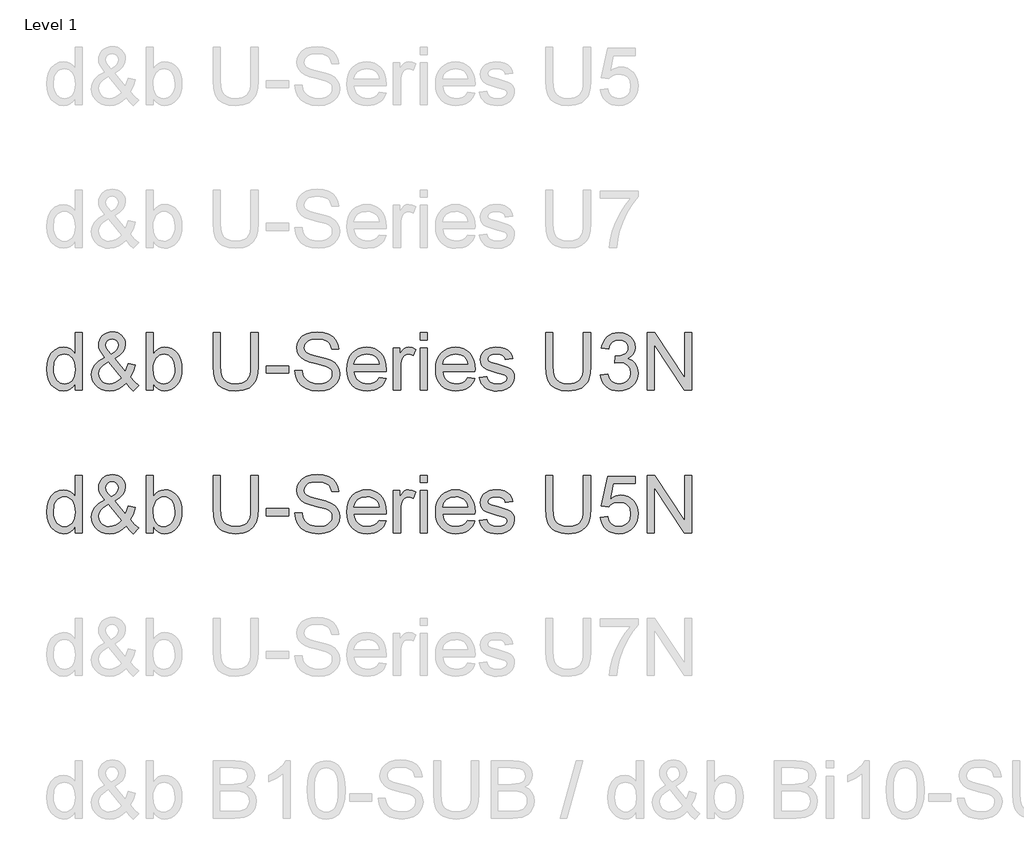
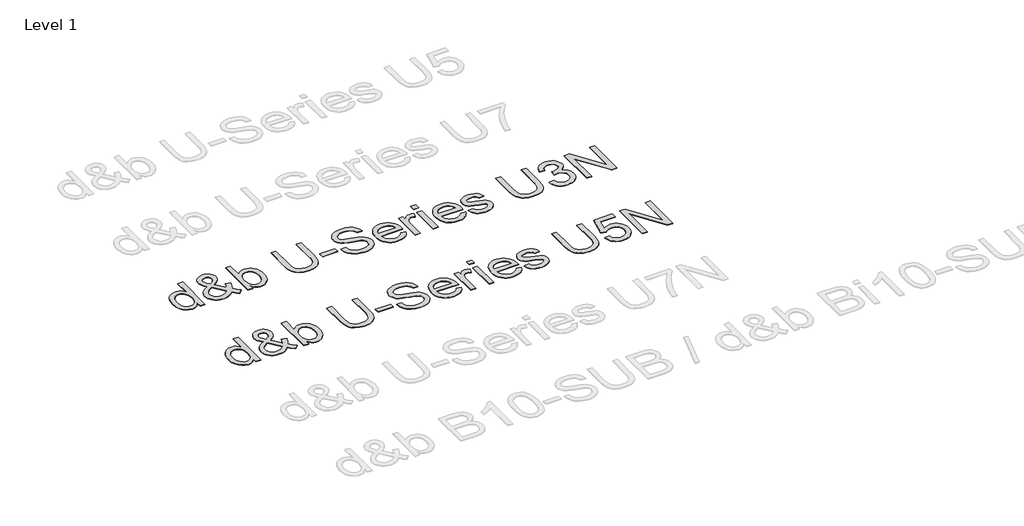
# One storey, part 22 of 29: 2 proxies.
"""IFC4 building model written with IfcOpenShell, lengths in millimetres."""

from ifc_helpers import new_model, si_unit, origin, origin_with_axes, place, context, project, spatial, polyline, outline, extrude, element, save

model = new_model("IFC4")

# Units and contexts
model_context = context("Model", 3, world=origin())
ifc_project = project(units=[si_unit("LENGTHUNIT", "METRE", prefix="MILLI")], contexts=[model_context])

# Site, building, storey
site = spatial("IfcSite", under=ifc_project)
building = spatial("IfcBuilding", under=site)
storey = spatial("IfcBuildingStorey", under=building, Name="Level 1", Elevation=0.0)

# Proxies
placement = place(None, origin())
element("IfcBuildingElementProxy", 1, Name="400mm Arial", ObjectType="400mm Arial", at=placement, inside=storey, context=model_context, shape_type="SweptSolid", body=[
    extrude(outline(polyline([(-20788.4119982, 13464.3636615), (-20788.4119982, 13511.7468625), (-20803.4399777, 13488.2698598), (-20821.6440051, 13471.5005722), (-20843.0240804, 13461.4389996), (-20867.5802036, 13458.0851421), (-20900.051921, 13462.9411844), (-20929.7767862, 13477.5093115), (-20954.9399147, 13500.7717163), (-20973.7264219, 13531.7105921), (-20985.4250694, 13569.0751401), (-20989.3246185, 13611.6145614), (-20985.7316377, 13653.6266853), (-20974.9526952, 13691.5675817), (-20957.0000539, 13723.2790097), (-20931.8859763, 13746.6027282), (-20901.5111863, 13760.950126), (-20867.7764073, 13765.7325919), (-20843.20189, 13762.3112894), (-20821.4723268, 13752.0473817), (-20803.0537016, 13736.3142951), (-20788.4119982, 13716.4854555), (-20788.4119982, 13866.1889021), (-20738.1838431, 13866.1889021), (-20738.1838431, 13464.3636615), (-20788.4119982, 13464.3636615)]), holes=[polyline([(-20939.0964634, 13611.8107652), (-20937.6801177, 13587.4539114), (-20933.4310807, 13566.3773388), (-20926.3493523, 13548.5810472), (-20916.4349325, 13534.0650368), (-20891.7377879, 13514.7512321), (-20877.8625053, 13509.9227809), (-20862.9694159, 13508.3132972), (-20848.0058157, 13509.8492045), (-20834.2133066, 13514.4569265), (-20810.1415614, 13532.8878145), (-20800.6348775, 13546.7968196), (-20793.844389, 13563.9493176), (-20788.4119982, 13607.9847924), (-20793.9424909, 13656.1282828), (-20800.8556067, 13674.663404), (-20810.5339688, 13689.5074425), (-20822.235682, 13700.8811276), (-20835.2188507, 13709.0051883), (-20849.4834751, 13713.8796247), (-20865.0295551, 13715.5044369), (-20880.2169501, 13713.9440041), (-20894.0922327, 13709.2627057), (-20906.6554028, 13701.4605417), (-20917.9064605, 13690.5375121), (-20927.1770868, 13676.2544937), (-20933.7989627, 13658.372363), (-20939.0964634, 13611.8107652)])]), origin_with_axes(), (0.0, 0.0, 1.0), 5.0),
    extrude(outline(polyline([(-20432.4003287, 13514.0032054), (-20457.9313392, 13489.5390527), (-20485.6696416, 13472.0646579), (-20515.664287, 13461.5800211), (-20547.9643262, 13458.0851421), (-20577.2722584, 13460.6725788), (-20603.3918801, 13468.4348889), (-20626.3231911, 13481.3720724), (-20646.0661915, 13499.4841293), (-20658.8991418, 13516.8542908), (-20668.0655348, 13535.2177338), (-20673.5653707, 13554.5744581), (-20675.3986493, 13574.9244638), (-20669.5002746, 13610.118508), (-20651.8051507, 13641.7318341), (-20622.3868538, 13669.7399167), (-20581.3189604, 13694.1182302), (-20603.2324646, 13722.4696693), (-20616.3903773, 13744.9349965), (-20622.975465, 13764.1139112), (-20625.1704942, 13782.6061128), (-20623.4414488, 13800.1602153), (-20618.2543127, 13816.5248327), (-20609.6090858, 13831.699965), (-20597.5057682, 13845.6856122), (-20582.784357, 13857.4026538), (-20566.2848495, 13865.7719692), (-20548.0072457, 13870.7935584), (-20527.9515456, 13872.4674215), (-20508.8032878, 13870.8671348), (-20491.4821772, 13866.0662748), (-20475.9882138, 13858.0648414), (-20462.3213977, 13846.8628346), (-20451.1623105, 13833.4167477), (-20443.1915339, 13818.6830738), (-20438.409068, 13802.6618129), (-20436.8149127, 13785.352965), (-20441.5360649, 13757.3694079), (-20455.6995218, 13731.4950409), (-20479.3052831, 13707.729864), (-20512.353349, 13686.0738773), (-20439.6598668, 13595.5258555), (-20427.2745063, 13621.4002225), (-20417.9793545, 13651.1496132), (-20367.7511994, 13640.2603061), (-20383.2022432, 13593.7354965), (-20403.2640747, 13557.5604336), (-20374.7164319, 13524.2548503), (-20342.6371219, 13496.7372771), (-20380.3082382, 13458.0851421), (-20405.9373505, 13481.5314879), (-20432.4003287, 13514.0032054)]), holes=[polyline([(-20537.7617322, 13717.7607798), (-20511.4949577, 13734.4258341), (-20496.4608468, 13748.908122), (-20489.3975125, 13762.9980024), (-20487.0430678, 13778.4858344), (-20490.1455392, 13796.0338056), (-20499.4529537, 13810.0255842), (-20513.4202068, 13819.1858458), (-20530.5021941, 13822.2392664), (-20547.9520634, 13819.2103713), (-20562.2381476, 13810.123686), (-20571.7662912, 13796.6714677), (-20574.9423391, 13780.5459736), (-20570.6258571, 13762.1518739), (-20557.578309, 13741.6976349), (-20537.7617322, 13717.7607798)]), polyline([(-20466.0492686, 13550.2027937), (-20555.7143735, 13662.1370221), (-20589.9641873, 13640.2848316), (-20610.8966728, 13620.0513218), (-20621.6020389, 13600.7252544), (-20625.1704942, 13581.5953906), (-20620.2899264, 13557.9037901), (-20605.648223, 13533.3292729), (-20594.8692805, 13522.3847835), (-20582.0547244, 13514.5672911), (-20567.2045545, 13509.8767957), (-20550.3187709, 13508.3132972), (-20527.5959264, 13511.2318277), (-20504.1618433, 13519.9874192), (-20482.7388484, 13533.3783238), (-20466.0492686, 13550.2027937)])]), origin_with_axes(), (0.0, 0.0, 1.0), 5.0),
    extrude(outline(polyline([(-20242.1808118, 13464.3636615), (-20292.4089668, 13464.3636615), (-20292.4089668, 13866.1889021), (-20242.1808118, 13866.1889021), (-20242.1808118, 13717.1721686), (-20225.6629102, 13738.4173538), (-20207.011293, 13753.5924861), (-20186.2259603, 13762.6975655), (-20163.306912, 13765.7325919), (-20137.432545, 13762.9980024), (-20112.9806551, 13754.7942339), (-20091.3491937, 13741.6363213), (-20073.9361126, 13724.0392992), (-20060.2876906, 13702.1748459), (-20049.9502065, 13676.2146398), (-20043.4386952, 13647.2378013), (-20041.2681915, 13616.323451), (-20043.5153373, 13580.6511602), (-20050.2567749, 13549.270826), (-20061.4925041, 13522.1824484), (-20077.2225251, 13499.3860274), (-20096.1040685, 13481.3168901), (-20116.7943651, 13468.4103634), (-20139.2934148, 13460.6664474), (-20163.6012176, 13458.0851421), (-20187.274424, 13461.4144742), (-20208.2620918, 13471.4024703), (-20226.5642211, 13488.0491306), (-20242.1808118, 13511.354455), (-20242.1808118, 13464.3636615)]), holes=[polyline([(-20242.1808118, 13613.9690062), (-20238.7472465, 13572.0795097), (-20228.4465506, 13543.7280706), (-20216.2757879, 13528.2341072), (-20202.1307252, 13517.1669905), (-20186.0113625, 13510.5267205), (-20167.9176997, 13508.3132972), (-20152.8958515, 13509.9442407), (-20138.9285984, 13514.8370712), (-20126.0159404, 13522.9917888), (-20114.1578774, 13534.4083934), (-20104.2434577, 13549.0562281), (-20097.1617293, 13566.9046363), (-20092.9126922, 13587.9536178), (-20091.4963465, 13612.2031726), (-20096.9287373, 13658.1638965), (-20103.7192258, 13675.9571224), (-20113.2259097, 13690.2922575), (-20124.6578427, 13701.322586), (-20137.2240785, 13709.201392), (-20150.9246172, 13713.9286757), (-20165.7594586, 13715.5044369), (-20180.7813068, 13713.8734934), (-20194.7485599, 13708.9806628), (-20207.6612179, 13700.8259453), (-20219.5192809, 13689.4093407), (-20229.4337006, 13674.9086587), (-20236.515429, 13657.501709), (-20240.7644661, 13637.1884915), (-20242.1808118, 13613.9690062)])]), origin_with_axes(), (0.0, 0.0, 1.0), 5.0),
    extrude(outline(polyline([(-19557.8221989, 13866.1889021), (-19507.5940438, 13866.1889021), (-19507.5940438, 13634.3741942), (-19511.0030836, 13580.0870744), (-19521.2302031, 13538.2834171), (-19529.4155775, 13521.3301884), (-19540.3355414, 13506.0324288), (-19570.3792376, 13480.4033165), (-19589.5213641, 13470.6391152), (-19611.4348683, 13463.6646857), (-19663.5760097, 13458.0851421), (-19714.576717, 13462.9411844), (-19755.3503048, 13477.5093115), (-19771.9049946, 13488.3097137), (-19785.9090359, 13501.2867511), (-19797.3624287, 13516.4404236), (-19806.2651729, 13533.7707312), (-19817.706303, 13577.3402222), (-19821.520013, 13634.3741942), (-19821.520013, 13866.1889021), (-19771.2918579, 13866.1889021), (-19771.2918579, 13636.1400278), (-19768.8147858, 13591.000907), (-19761.3835695, 13559.5715218), (-19747.9190885, 13537.8051705), (-19727.3422222, 13521.6551509), (-19700.5113621, 13511.6487606), (-19668.2848993, 13508.3132972), (-19640.6017791, 13509.9626348), (-19617.1983529, 13514.9106476), (-19598.0746205, 13523.1573357), (-19583.230582, 13534.702699), (-19572.1144144, 13550.9385577), (-19564.1742947, 13573.2567321), (-19559.4102228, 13601.6572221), (-19557.8221989, 13636.1400278), (-19557.8221989, 13866.1889021)])), origin_with_axes(), (0.0, 0.0, 1.0), 5.0),
    extrude(outline(polyline([(-19451.0873693, 13583.6555298), (-19451.0873693, 13633.8836849), (-19294.1243847, 13633.8836849), (-19294.1243847, 13583.6555298), (-19451.0873693, 13583.6555298)])), origin_with_axes(), (0.0, 0.0, 1.0), 5.0),
    extrude(outline(polyline([(-19250.174749, 13602.4910879), (-19199.946594, 13602.4910879), (-19194.1831094, 13574.6178954), (-19183.7597862, 13552.2138819), (-19167.499402, 13534.4329188), (-19144.2247344, 13520.4288776), (-19115.7751935, 13511.3421923), (-19083.9901891, 13508.3132972), (-19056.006632, 13510.6064283), (-19031.5056911, 13517.4858216), (-19011.6523261, 13528.3751287), (-18997.6114966, 13542.698001), (-18989.2605753, 13559.1423262), (-18986.4769349, 13576.3959918), (-18988.5615995, 13593.2081989), (-18994.8155934, 13607.7395377), (-19007.519785, 13620.137161), (-19028.9550426, 13630.5482214), (-19102.0899832, 13649.7271361), (-19150.0985836, 13662.419065), (-19180.8167302, 13674.4978571), (-19205.8204431, 13691.3959034), (-19223.5400926, 13711.8746678), (-19234.0983058, 13735.4926919), (-19237.6177103, 13761.8085173), (-19233.26444, 13791.2268142), (-19220.2046292, 13818.6585483), (-19198.7816343, 13841.9086904), (-19169.338812, 13858.7822113), (-19133.997615, 13869.0461189), (-19094.8794961, 13872.4674215), (-19052.4994903, 13868.8867034), (-19015.4169852, 13858.1445491), (-18984.956356, 13840.4616879), (-18962.4419779, 13816.0588489), (-18948.1926819, 13786.456611), (-18942.5272992, 13753.1755532), (-18992.7554543, 13753.1755532), (-19001.9770296, 13783.145673), (-19010.3402136, 13795.003736), (-19021.2049952, 13804.7771344), (-19051.2486915, 13817.8737334), (-19092.9174588, 13822.2392664), (-19135.5672448, 13817.9227843), (-19151.8705486, 13812.5271817), (-19164.8261262, 13804.9733381), (-19181.7486979, 13785.9170507), (-19187.3895552, 13763.2800453), (-19183.3919042, 13743.9785033), (-19171.3989511, 13728.4538831), (-19143.047512, 13714.5724691), (-19089.3857917, 13700.3967496), (-19034.0072887, 13686.9322686), (-19000.5055016, 13675.1845702), (-18971.8720197, 13656.9621487), (-18951.8960273, 13634.4722961), (-18940.1605917, 13607.9602669), (-18936.2487798, 13577.671316), (-18940.7492029, 13546.7079147), (-18954.2504721, 13517.5839235), (-18976.2007645, 13492.5188969), (-19006.048257, 13473.7323896), (-19041.941277, 13461.996954), (-19082.0281518, 13458.0851421), (-19131.2385, 13462.3035223), (-19171.7423077, 13474.958663), (-19204.0055586, 13496.0996149), (-19228.4942368, 13525.7754292), (-19244.2150607, 13561.9259666), (-19250.174749, 13602.4910879)])), origin_with_axes(), (0.0, 0.0, 1.0), 5.0),
    extrude(outline(polyline([(-18660.5825381, 13552.2629329), (-18611.3354017, 13545.9844135), (-18618.8861796, 13526.2598072), (-18629.0795766, 13508.8773829), (-18641.9155925, 13493.8371407), (-18657.3942275, 13481.1390805), (-18675.3560659, 13471.0529824), (-18695.6416922, 13463.8486267), (-18743.1843087, 13458.0851421), (-18774.3500451, 13460.5714113), (-18802.1190044, 13468.0302187), (-18826.4911866, 13480.4615645), (-18847.4665916, 13497.8654485), (-18864.3339811, 13519.7574929), (-18876.3821165, 13545.6533197), (-18883.6109977, 13575.5529288), (-18886.0206247, 13609.4563204), (-18883.5864722, 13644.5093432), (-18876.2840146, 13675.4052994), (-18864.1132519, 13702.1441891), (-18847.0741842, 13724.7260122), (-18826.1539614, 13742.6663908), (-18802.3397336, 13755.480947), (-18775.6315007, 13763.1696807), (-18746.0292628, 13765.7325919), (-18717.3804525, 13763.1758121), (-18691.472363, 13755.5054725), (-18668.3049943, 13742.7215731), (-18647.8783465, 13724.8241141), (-18631.2040951, 13702.2913419), (-18619.2939155, 13675.6015031), (-18612.1478077, 13644.7545978), (-18609.7657718, 13609.750626), (-18610.0600774, 13596.2125686), (-18835.7924697, 13596.2125686), (-18832.8831362, 13576.1691312), (-18827.0981918, 13558.6150287), (-18818.4376365, 13543.550261), (-18806.9014703, 13530.9748281), (-18793.1273553, 13521.0604083), (-18777.7529536, 13513.9786799), (-18742.2032901, 13508.3132972), (-18715.4705318, 13510.9375221), (-18692.9561537, 13518.8101968), (-18674.6601558, 13532.4218306), (-18660.5825381, 13552.2629329)]), holes=[polyline([(-18835.7924697, 13646.4407236), (-18659.9939269, 13646.4407236), (-18666.7874811, 13672.9772782), (-18680.1048093, 13691.9599892), (-18693.8022823, 13702.260685), (-18709.3882161, 13709.6183249), (-18726.8626109, 13714.0329089), (-18746.2254666, 13715.5044369), (-18780.0828729, 13710.8078101), (-18808.0786927, 13696.7179296), (-18827.5396502, 13674.7553745), (-18835.7924697, 13646.4407236)])]), origin_with_axes(), (0.0, 0.0, 1.0), 5.0),
    extrude(outline(polyline([(-18559.5376168, 13464.3636615), (-18559.5376168, 13759.4540726), (-18515.5879811, 13759.4540726), (-18515.5879811, 13715.7987425), (-18499.3521223, 13741.1090237), (-18484.3915879, 13756.0205073), (-18469.3820025, 13763.3045708), (-18452.998991, 13765.7325919), (-18427.9830153, 13761.8575683), (-18402.5746321, 13750.2324972), (-18419.3500511, 13705.203741), (-18437.0083869, 13712.9292629), (-18454.6667227, 13715.5044369), (-18469.6640453, 13713.0273648), (-18483.0672127, 13705.5961485), (-18493.8952061, 13693.7748737), (-18501.1670069, 13678.1276262), (-18507.273848, 13650.0704927), (-18509.3094617, 13619.4627107), (-18509.3094617, 13464.3636615), (-18559.5376168, 13464.3636615)])), origin_with_axes(), (0.0, 0.0, 1.0), 5.0),
    extrude(outline(polyline([(-18371.1820352, 13815.960747), (-18371.1820352, 13866.1889021), (-18320.9538802, 13866.1889021), (-18320.9538802, 13815.960747), (-18371.1820352, 13815.960747)])), origin_with_axes(), (0.0, 0.0, 1.0), 5.0),
    extrude(outline(polyline([(-18371.1820352, 13464.3636615), (-18371.1820352, 13759.4540726), (-18320.9538802, 13759.4540726), (-18320.9538802, 13464.3636615), (-18371.1820352, 13464.3636615)])), origin_with_axes(), (0.0, 0.0, 1.0), 5.0),
    extrude(outline(polyline([(-18039.009119, 13552.2629329), (-17989.7619826, 13545.9844135), (-17997.3127606, 13526.2598072), (-18007.5061575, 13508.8773829), (-18020.3421735, 13493.8371407), (-18035.8208084, 13481.1390805), (-18053.7826468, 13471.0529824), (-18074.0682732, 13463.8486267), (-18121.6108897, 13458.0851421), (-18152.7766261, 13460.5714113), (-18180.5455853, 13468.0302187), (-18204.9177675, 13480.4615645), (-18225.8931726, 13497.8654485), (-18242.7605621, 13519.7574929), (-18254.8086974, 13545.6533197), (-18262.0375786, 13575.5529288), (-18264.4472057, 13609.4563204), (-18262.0130532, 13644.5093432), (-18254.7105956, 13675.4052994), (-18242.5398329, 13702.1441891), (-18225.5007651, 13724.7260122), (-18204.5805423, 13742.6663908), (-18180.7663145, 13755.480947), (-18154.0580817, 13763.1696807), (-18124.4558438, 13765.7325919), (-18095.8070334, 13763.1758121), (-18069.8989439, 13755.5054725), (-18046.7315753, 13742.7215731), (-18026.3049275, 13724.8241141), (-18009.630676, 13702.2913419), (-17997.7204965, 13675.6015031), (-17990.5743887, 13644.7545978), (-17988.1923528, 13609.750626), (-17988.4866584, 13596.2125686), (-18214.2190506, 13596.2125686), (-18211.3097172, 13576.1691312), (-18205.5247728, 13558.6150287), (-18196.8642175, 13543.550261), (-18185.3280513, 13530.9748281), (-18171.5539362, 13521.0604083), (-18156.1795345, 13513.9786799), (-18120.629871, 13508.3132972), (-18093.8971127, 13510.9375221), (-18071.3827346, 13518.8101968), (-18053.0867367, 13532.4218306), (-18039.009119, 13552.2629329)]), holes=[polyline([(-18214.2190506, 13646.4407236), (-18038.4205079, 13646.4407236), (-18045.214062, 13672.9772782), (-18058.5313903, 13691.9599892), (-18072.2288632, 13702.260685), (-18087.8147971, 13709.6183249), (-18105.2891918, 13714.0329089), (-18124.6520475, 13715.5044369), (-18158.5094538, 13710.8078101), (-18186.5052736, 13696.7179296), (-18205.9662312, 13674.7553745), (-18214.2190506, 13646.4407236)])]), origin_with_axes(), (0.0, 0.0, 1.0), 5.0),
    extrude(outline(polyline([(-17956.7997559, 13552.2629329), (-17906.5716008, 13558.5414523), (-17898.6498752, 13537.0571437), (-17883.3214587, 13521.2627434), (-17860.4882495, 13511.5506587), (-17830.0521458, 13508.3132972), (-17799.983924, 13511.2808786), (-17778.8429721, 13520.1836229), (-17766.3349842, 13533.0840182), (-17762.1656549, 13548.0445527), (-17766.3595097, 13560.8468461), (-17778.9410739, 13570.6079817), (-17830.640757, 13584.930854), (-17906.2772952, 13609.5053713), (-17925.4194217, 13621.8539436), (-17939.2885729, 13638.2001669), (-17947.7130706, 13657.501709), (-17950.5212365, 13678.7162373), (-17948.2648936, 13698.1771949), (-17941.4958649, 13716.142099), (-17930.827287, 13731.8997111), (-17916.8722966, 13744.7387927), (-17884.9401395, 13759.6012254), (-17864.0567049, 13764.1997503), (-17841.7262678, 13765.7325919), (-17809.0338211, 13763.2677826), (-17780.6088056, 13755.8733545), (-17757.751071, 13744.2728089), (-17741.7604669, 13729.1896471), (-17731.1654655, 13709.5079603), (-17724.4945386, 13684.1118399), (-17774.7226937, 13677.8333206), (-17781.0625268, 13693.6399836), (-17793.6073028, 13705.5470975), (-17812.4796492, 13713.015102), (-17837.8021932, 13715.5044369), (-17866.6441416, 13713.1254666), (-17885.8721072, 13705.9885559), (-17896.6878378, 13695.6878601), (-17900.2930814, 13683.8175343), (-17894.3088676, 13669.2003564), (-17875.5714113, 13658.1148456), (-17832.3084887, 13647.4217423), (-17758.5849369, 13623.7791927), (-17739.1117166, 13612.4729527), (-17724.3473858, 13596.9973835), (-17715.0399714, 13577.303434), (-17711.9374999, 13553.3420534), (-17715.5795316, 13528.5713324), (-17726.5056269, 13505.2721394), (-17744.2988527, 13485.2716215), (-17768.5422762, 13470.3969262), (-17797.825683, 13461.1630881), (-17830.7388588, 13458.0851421), (-17857.7720541, 13459.5689328), (-17881.3839468, 13464.020305), (-17901.574537, 13471.4392585), (-17918.3438246, 13481.8257935), (-17932.0412976, 13495.130859), (-17943.0164438, 13511.3054041), (-17951.2692632, 13530.3494287), (-17956.7997559, 13552.2629329)])), origin_with_axes(), (0.0, 0.0, 1.0), 5.0),
    extrude(outline(polyline([(-17228.4915073, 13866.1889021), (-17178.2633522, 13866.1889021), (-17178.2633522, 13634.3741942), (-17181.672392, 13580.0870744), (-17191.8995115, 13538.2834171), (-17200.0848859, 13521.3301884), (-17211.0048498, 13506.0324288), (-17241.048546, 13480.4033165), (-17260.1906725, 13470.6391152), (-17282.1041767, 13463.6646857), (-17334.2453182, 13458.0851421), (-17385.2460254, 13462.9411844), (-17426.0196132, 13477.5093115), (-17442.574303, 13488.3097137), (-17456.5783443, 13501.2867511), (-17468.0317371, 13516.4404236), (-17476.9344814, 13533.7707312), (-17488.3756114, 13577.3402222), (-17492.1893214, 13634.3741942), (-17492.1893214, 13866.1889021), (-17441.9611663, 13866.1889021), (-17441.9611663, 13636.1400278), (-17439.4840942, 13591.000907), (-17432.0528779, 13559.5715218), (-17418.5883969, 13537.8051705), (-17398.0115307, 13521.6551509), (-17371.1806705, 13511.6487606), (-17338.9542077, 13508.3132972), (-17311.2710876, 13509.9626348), (-17287.8676613, 13514.9106476), (-17268.7439289, 13523.1573357), (-17253.8998904, 13534.702699), (-17242.7837228, 13550.9385577), (-17234.8436031, 13573.2567321), (-17230.0795312, 13601.6572221), (-17228.4915073, 13636.1400278), (-17228.4915073, 13866.1889021)])), origin_with_axes(), (0.0, 0.0, 1.0), 5.0),
    extrude(outline(polyline([(-17109.199639, 13571.098491), (-17058.9714839, 13577.3770104), (-17047.7265576, 13545.8127352), (-17031.2577069, 13524.500105), (-17008.7555916, 13512.3599991), (-16979.4108711, 13508.3132972), (-16944.9771163, 13513.880578), (-16930.7032949, 13520.8396791), (-16918.3915108, 13530.5824206), (-16901.3953626, 13555.5002944), (-16895.7299799, 13585.715669), (-16901.3463117, 13614.3982019), (-16918.1953071, 13637.6606067), (-16943.7017921, 13653.0748623), (-16975.2905927, 13658.2129475), (-17010.5091624, 13652.719243), (-17004.9173561, 13702.9473981), (-16996.8730031, 13702.3587869), (-16966.7802559, 13705.9640305), (-16939.8758193, 13716.7797611), (-16928.8025713, 13724.9590041), (-16920.8931084, 13735.075759), (-16916.1474306, 13747.1300257), (-16914.5655381, 13761.1218043), (-16919.1518003, 13782.8145792), (-16932.9105869, 13800.4116014), (-16953.9043861, 13812.0734606), (-16980.195686, 13815.960747), (-17006.5360369, 13812.0366724), (-17028.0693963, 13800.2644486), (-17043.7902202, 13780.6440755), (-17052.6929645, 13753.1755532), (-17102.9211196, 13759.4540726), (-17096.9675626, 13783.4338473), (-17088.1322634, 13804.5564052), (-17076.4152218, 13822.8217462), (-17061.816438, 13838.2298705), (-17044.7957643, 13850.4619468), (-17025.8130534, 13859.1991442), (-17004.8683051, 13864.4414626), (-16981.9615196, 13866.1889021), (-16950.3849817, 13862.7430741), (-16921.3836177, 13852.40559), (-16896.9317278, 13836.0961549), (-16879.0036119, 13814.7344737), (-16868.0039402, 13790.1231682), (-16864.337383, 13764.0648602), (-16867.8199992, 13739.7846485), (-16878.2678479, 13717.7607798), (-16895.5337762, 13698.998798), (-16919.4706313, 13684.5042474), (-16888.0289835, 13671.8000558), (-16864.7297904, 13650.1685945), (-16850.3088162, 13620.7870858), (-16845.5018248, 13584.8327522), (-16847.9053205, 13559.3507926), (-16855.1158076, 13535.8799214), (-16867.1332861, 13514.4201383), (-16883.9577561, 13494.9714435), (-16904.4549146, 13478.8336866), (-16927.4904588, 13467.3067175), (-16953.0643889, 13460.3905359), (-16981.1767046, 13458.0851421), (-17006.5850878, 13460.0533108), (-17029.737128, 13465.9578168), (-17050.6328253, 13475.7986602), (-17069.2721798, 13489.5758409), (-17084.9010332, 13506.4800186), (-17096.7652275, 13525.7018528), (-17104.8647628, 13547.2413436), (-17109.199639, 13571.098491)])), origin_with_axes(), (0.0, 0.0, 1.0), 5.0),
    extrude(outline(polyline([(-16782.716631, 13464.3636615), (-16782.716631, 13866.1889021), (-16728.9568088, 13866.1889021), (-16519.0188168, 13547.8483489), (-16519.0188168, 13866.1889021), (-16468.7906618, 13866.1889021), (-16468.7906618, 13464.3636615), (-16522.550484, 13464.3636615), (-16732.4884759, 13782.8023165), (-16732.4884759, 13464.3636615), (-16782.716631, 13464.3636615)])), origin_with_axes(), (0.0, 0.0, 1.0), 5.0),
])
element("IfcBuildingElementProxy", 2, Name="400mm Arial", ObjectType="400mm Arial", at=placement, inside=storey, context=model_context, shape_type="SweptSolid", body=[
    extrude(outline(polyline([(-20788.4119982, 12464.3636615), (-20788.4119982, 12511.7468625), (-20803.4399777, 12488.2698598), (-20821.6440051, 12471.5005722), (-20843.0240804, 12461.4389996), (-20867.5802036, 12458.0851421), (-20900.051921, 12462.9411844), (-20929.7767862, 12477.5093115), (-20954.9399147, 12500.7717163), (-20973.7264219, 12531.7105921), (-20985.4250694, 12569.0751401), (-20989.3246185, 12611.6145614), (-20985.7316377, 12653.6266853), (-20974.9526952, 12691.5675817), (-20957.0000539, 12723.2790097), (-20931.8859763, 12746.6027282), (-20901.5111863, 12760.950126), (-20867.7764073, 12765.7325919), (-20843.20189, 12762.3112894), (-20821.4723268, 12752.0473817), (-20803.0537016, 12736.3142951), (-20788.4119982, 12716.4854555), (-20788.4119982, 12866.1889021), (-20738.1838431, 12866.1889021), (-20738.1838431, 12464.3636615), (-20788.4119982, 12464.3636615)]), holes=[polyline([(-20939.0964634, 12611.8107652), (-20937.6801177, 12587.4539114), (-20933.4310807, 12566.3773388), (-20926.3493523, 12548.5810472), (-20916.4349325, 12534.0650368), (-20891.7377879, 12514.7512321), (-20877.8625053, 12509.9227809), (-20862.9694159, 12508.3132972), (-20848.0058157, 12509.8492045), (-20834.2133066, 12514.4569265), (-20810.1415614, 12532.8878145), (-20800.6348775, 12546.7968196), (-20793.844389, 12563.9493176), (-20788.4119982, 12607.9847924), (-20793.9424909, 12656.1282828), (-20800.8556067, 12674.663404), (-20810.5339688, 12689.5074425), (-20822.235682, 12700.8811276), (-20835.2188507, 12709.0051883), (-20849.4834751, 12713.8796247), (-20865.0295551, 12715.5044369), (-20880.2169501, 12713.9440041), (-20894.0922327, 12709.2627057), (-20906.6554028, 12701.4605417), (-20917.9064605, 12690.5375121), (-20927.1770868, 12676.2544937), (-20933.7989627, 12658.372363), (-20939.0964634, 12611.8107652)])]), origin_with_axes(), (0.0, 0.0, 1.0), 5.0),
    extrude(outline(polyline([(-20432.4003287, 12514.0032054), (-20457.9313392, 12489.5390527), (-20485.6696416, 12472.0646579), (-20515.664287, 12461.5800211), (-20547.9643262, 12458.0851421), (-20577.2722584, 12460.6725788), (-20603.3918801, 12468.4348889), (-20626.3231911, 12481.3720724), (-20646.0661915, 12499.4841293), (-20658.8991418, 12516.8542908), (-20668.0655348, 12535.2177338), (-20673.5653707, 12554.5744581), (-20675.3986493, 12574.9244638), (-20669.5002746, 12610.118508), (-20651.8051507, 12641.7318341), (-20622.3868538, 12669.7399167), (-20581.3189604, 12694.1182302), (-20603.2324646, 12722.4696693), (-20616.3903773, 12744.9349965), (-20622.975465, 12764.1139112), (-20625.1704942, 12782.6061128), (-20623.4414488, 12800.1602153), (-20618.2543127, 12816.5248327), (-20609.6090858, 12831.699965), (-20597.5057682, 12845.6856122), (-20582.784357, 12857.4026538), (-20566.2848495, 12865.7719692), (-20548.0072457, 12870.7935584), (-20527.9515456, 12872.4674215), (-20508.8032878, 12870.8671348), (-20491.4821772, 12866.0662748), (-20475.9882138, 12858.0648414), (-20462.3213977, 12846.8628346), (-20451.1623105, 12833.4167477), (-20443.1915339, 12818.6830738), (-20438.409068, 12802.6618129), (-20436.8149127, 12785.352965), (-20441.5360649, 12757.3694079), (-20455.6995218, 12731.4950409), (-20479.3052831, 12707.729864), (-20512.353349, 12686.0738773), (-20439.6598668, 12595.5258555), (-20427.2745063, 12621.4002225), (-20417.9793545, 12651.1496132), (-20367.7511994, 12640.2603061), (-20383.2022432, 12593.7354965), (-20403.2640747, 12557.5604336), (-20374.7164319, 12524.2548503), (-20342.6371219, 12496.7372771), (-20380.3082382, 12458.0851421), (-20405.9373505, 12481.5314879), (-20432.4003287, 12514.0032054)]), holes=[polyline([(-20537.7617322, 12717.7607798), (-20511.4949577, 12734.4258341), (-20496.4608468, 12748.908122), (-20489.3975125, 12762.9980024), (-20487.0430678, 12778.4858344), (-20490.1455392, 12796.0338056), (-20499.4529537, 12810.0255842), (-20513.4202068, 12819.1858458), (-20530.5021941, 12822.2392664), (-20547.9520634, 12819.2103713), (-20562.2381476, 12810.123686), (-20571.7662912, 12796.6714677), (-20574.9423391, 12780.5459736), (-20570.6258571, 12762.1518739), (-20557.578309, 12741.6976349), (-20537.7617322, 12717.7607798)]), polyline([(-20466.0492686, 12550.2027937), (-20555.7143735, 12662.1370221), (-20589.9641873, 12640.2848316), (-20610.8966728, 12620.0513218), (-20621.6020389, 12600.7252544), (-20625.1704942, 12581.5953906), (-20620.2899264, 12557.9037901), (-20605.648223, 12533.3292729), (-20594.8692805, 12522.3847835), (-20582.0547244, 12514.5672911), (-20567.2045545, 12509.8767957), (-20550.3187709, 12508.3132972), (-20527.5959264, 12511.2318277), (-20504.1618433, 12519.9874192), (-20482.7388484, 12533.3783238), (-20466.0492686, 12550.2027937)])]), origin_with_axes(), (0.0, 0.0, 1.0), 5.0),
    extrude(outline(polyline([(-20242.1808118, 12464.3636615), (-20292.4089668, 12464.3636615), (-20292.4089668, 12866.1889021), (-20242.1808118, 12866.1889021), (-20242.1808118, 12717.1721686), (-20225.6629102, 12738.4173538), (-20207.011293, 12753.5924861), (-20186.2259603, 12762.6975655), (-20163.306912, 12765.7325919), (-20137.432545, 12762.9980024), (-20112.9806551, 12754.7942339), (-20091.3491937, 12741.6363213), (-20073.9361126, 12724.0392992), (-20060.2876906, 12702.1748459), (-20049.9502065, 12676.2146398), (-20043.4386952, 12647.2378013), (-20041.2681915, 12616.323451), (-20043.5153373, 12580.6511602), (-20050.2567749, 12549.270826), (-20061.4925041, 12522.1824484), (-20077.2225251, 12499.3860274), (-20096.1040685, 12481.3168901), (-20116.7943651, 12468.4103634), (-20139.2934148, 12460.6664474), (-20163.6012176, 12458.0851421), (-20187.274424, 12461.4144742), (-20208.2620918, 12471.4024703), (-20226.5642211, 12488.0491306), (-20242.1808118, 12511.354455), (-20242.1808118, 12464.3636615)]), holes=[polyline([(-20242.1808118, 12613.9690062), (-20238.7472465, 12572.0795097), (-20228.4465506, 12543.7280706), (-20216.2757879, 12528.2341072), (-20202.1307252, 12517.1669905), (-20186.0113625, 12510.5267205), (-20167.9176997, 12508.3132972), (-20152.8958515, 12509.9442407), (-20138.9285984, 12514.8370712), (-20126.0159404, 12522.9917888), (-20114.1578774, 12534.4083934), (-20104.2434577, 12549.0562281), (-20097.1617293, 12566.9046363), (-20092.9126922, 12587.9536178), (-20091.4963465, 12612.2031726), (-20096.9287373, 12658.1638965), (-20103.7192258, 12675.9571224), (-20113.2259097, 12690.2922575), (-20124.6578427, 12701.322586), (-20137.2240785, 12709.201392), (-20150.9246172, 12713.9286757), (-20165.7594586, 12715.5044369), (-20180.7813068, 12713.8734934), (-20194.7485599, 12708.9806628), (-20207.6612179, 12700.8259453), (-20219.5192809, 12689.4093407), (-20229.4337006, 12674.9086587), (-20236.515429, 12657.501709), (-20240.7644661, 12637.1884915), (-20242.1808118, 12613.9690062)])]), origin_with_axes(), (0.0, 0.0, 1.0), 5.0),
    extrude(outline(polyline([(-19557.8221989, 12866.1889021), (-19507.5940438, 12866.1889021), (-19507.5940438, 12634.3741942), (-19511.0030836, 12580.0870744), (-19521.2302031, 12538.2834171), (-19529.4155775, 12521.3301884), (-19540.3355414, 12506.0324288), (-19570.3792376, 12480.4033165), (-19589.5213641, 12470.6391152), (-19611.4348683, 12463.6646857), (-19663.5760097, 12458.0851421), (-19714.576717, 12462.9411844), (-19755.3503048, 12477.5093115), (-19771.9049946, 12488.3097137), (-19785.9090359, 12501.2867511), (-19797.3624287, 12516.4404236), (-19806.2651729, 12533.7707312), (-19817.706303, 12577.3402222), (-19821.520013, 12634.3741942), (-19821.520013, 12866.1889021), (-19771.2918579, 12866.1889021), (-19771.2918579, 12636.1400278), (-19768.8147858, 12591.000907), (-19761.3835695, 12559.5715218), (-19747.9190885, 12537.8051705), (-19727.3422222, 12521.6551509), (-19700.5113621, 12511.6487606), (-19668.2848993, 12508.3132972), (-19640.6017791, 12509.9626348), (-19617.1983529, 12514.9106476), (-19598.0746205, 12523.1573357), (-19583.230582, 12534.702699), (-19572.1144144, 12550.9385577), (-19564.1742947, 12573.2567321), (-19559.4102228, 12601.6572221), (-19557.8221989, 12636.1400278), (-19557.8221989, 12866.1889021)])), origin_with_axes(), (0.0, 0.0, 1.0), 5.0),
    extrude(outline(polyline([(-19451.0873693, 12583.6555298), (-19451.0873693, 12633.8836849), (-19294.1243847, 12633.8836849), (-19294.1243847, 12583.6555298), (-19451.0873693, 12583.6555298)])), origin_with_axes(), (0.0, 0.0, 1.0), 5.0),
    extrude(outline(polyline([(-19250.174749, 12602.4910879), (-19199.946594, 12602.4910879), (-19194.1831094, 12574.6178954), (-19183.7597862, 12552.2138819), (-19167.499402, 12534.4329188), (-19144.2247344, 12520.4288776), (-19115.7751935, 12511.3421923), (-19083.9901891, 12508.3132972), (-19056.006632, 12510.6064283), (-19031.5056911, 12517.4858216), (-19011.6523261, 12528.3751287), (-18997.6114966, 12542.698001), (-18989.2605753, 12559.1423262), (-18986.4769349, 12576.3959918), (-18988.5615995, 12593.2081989), (-18994.8155934, 12607.7395377), (-19007.519785, 12620.137161), (-19028.9550426, 12630.5482214), (-19102.0899832, 12649.7271361), (-19150.0985836, 12662.419065), (-19180.8167302, 12674.4978571), (-19205.8204431, 12691.3959034), (-19223.5400926, 12711.8746678), (-19234.0983058, 12735.4926919), (-19237.6177103, 12761.8085173), (-19233.26444, 12791.2268142), (-19220.2046292, 12818.6585483), (-19198.7816343, 12841.9086904), (-19169.338812, 12858.7822113), (-19133.997615, 12869.0461189), (-19094.8794961, 12872.4674215), (-19052.4994903, 12868.8867034), (-19015.4169852, 12858.1445491), (-18984.956356, 12840.4616879), (-18962.4419779, 12816.0588489), (-18948.1926819, 12786.456611), (-18942.5272992, 12753.1755532), (-18992.7554543, 12753.1755532), (-19001.9770296, 12783.145673), (-19010.3402136, 12795.003736), (-19021.2049952, 12804.7771344), (-19051.2486915, 12817.8737334), (-19092.9174588, 12822.2392664), (-19135.5672448, 12817.9227843), (-19151.8705486, 12812.5271817), (-19164.8261262, 12804.9733381), (-19181.7486979, 12785.9170507), (-19187.3895552, 12763.2800453), (-19183.3919042, 12743.9785033), (-19171.3989511, 12728.4538831), (-19143.047512, 12714.5724691), (-19089.3857917, 12700.3967496), (-19034.0072887, 12686.9322686), (-19000.5055016, 12675.1845702), (-18971.8720197, 12656.9621487), (-18951.8960273, 12634.4722961), (-18940.1605917, 12607.9602669), (-18936.2487798, 12577.671316), (-18940.7492029, 12546.7079147), (-18954.2504721, 12517.5839235), (-18976.2007645, 12492.5188969), (-19006.048257, 12473.7323896), (-19041.941277, 12461.996954), (-19082.0281518, 12458.0851421), (-19131.2385, 12462.3035223), (-19171.7423077, 12474.958663), (-19204.0055586, 12496.0996149), (-19228.4942368, 12525.7754292), (-19244.2150607, 12561.9259666), (-19250.174749, 12602.4910879)])), origin_with_axes(), (0.0, 0.0, 1.0), 5.0),
    extrude(outline(polyline([(-18660.5825381, 12552.2629329), (-18611.3354017, 12545.9844135), (-18618.8861796, 12526.2598072), (-18629.0795766, 12508.8773829), (-18641.9155925, 12493.8371407), (-18657.3942275, 12481.1390805), (-18675.3560659, 12471.0529824), (-18695.6416922, 12463.8486267), (-18743.1843087, 12458.0851421), (-18774.3500451, 12460.5714113), (-18802.1190044, 12468.0302187), (-18826.4911866, 12480.4615645), (-18847.4665916, 12497.8654485), (-18864.3339811, 12519.7574929), (-18876.3821165, 12545.6533197), (-18883.6109977, 12575.5529288), (-18886.0206247, 12609.4563204), (-18883.5864722, 12644.5093432), (-18876.2840146, 12675.4052994), (-18864.1132519, 12702.1441891), (-18847.0741842, 12724.7260122), (-18826.1539614, 12742.6663908), (-18802.3397336, 12755.480947), (-18775.6315007, 12763.1696807), (-18746.0292628, 12765.7325919), (-18717.3804525, 12763.1758121), (-18691.472363, 12755.5054725), (-18668.3049943, 12742.7215731), (-18647.8783465, 12724.8241141), (-18631.2040951, 12702.2913419), (-18619.2939155, 12675.6015031), (-18612.1478077, 12644.7545978), (-18609.7657718, 12609.750626), (-18610.0600774, 12596.2125686), (-18835.7924697, 12596.2125686), (-18832.8831362, 12576.1691312), (-18827.0981918, 12558.6150287), (-18818.4376365, 12543.550261), (-18806.9014703, 12530.9748281), (-18793.1273553, 12521.0604083), (-18777.7529536, 12513.9786799), (-18742.2032901, 12508.3132972), (-18715.4705318, 12510.9375221), (-18692.9561537, 12518.8101968), (-18674.6601558, 12532.4218306), (-18660.5825381, 12552.2629329)]), holes=[polyline([(-18835.7924697, 12646.4407236), (-18659.9939269, 12646.4407236), (-18666.7874811, 12672.9772782), (-18680.1048093, 12691.9599892), (-18693.8022823, 12702.260685), (-18709.3882161, 12709.6183249), (-18726.8626109, 12714.0329089), (-18746.2254666, 12715.5044369), (-18780.0828729, 12710.8078101), (-18808.0786927, 12696.7179296), (-18827.5396502, 12674.7553745), (-18835.7924697, 12646.4407236)])]), origin_with_axes(), (0.0, 0.0, 1.0), 5.0),
    extrude(outline(polyline([(-18559.5376168, 12464.3636615), (-18559.5376168, 12759.4540726), (-18515.5879811, 12759.4540726), (-18515.5879811, 12715.7987425), (-18499.3521223, 12741.1090237), (-18484.3915879, 12756.0205073), (-18469.3820025, 12763.3045708), (-18452.998991, 12765.7325919), (-18427.9830153, 12761.8575683), (-18402.5746321, 12750.2324972), (-18419.3500511, 12705.203741), (-18437.0083869, 12712.9292629), (-18454.6667227, 12715.5044369), (-18469.6640453, 12713.0273648), (-18483.0672127, 12705.5961485), (-18493.8952061, 12693.7748737), (-18501.1670069, 12678.1276262), (-18507.273848, 12650.0704927), (-18509.3094617, 12619.4627107), (-18509.3094617, 12464.3636615), (-18559.5376168, 12464.3636615)])), origin_with_axes(), (0.0, 0.0, 1.0), 5.0),
    extrude(outline(polyline([(-18371.1820352, 12815.960747), (-18371.1820352, 12866.1889021), (-18320.9538802, 12866.1889021), (-18320.9538802, 12815.960747), (-18371.1820352, 12815.960747)])), origin_with_axes(), (0.0, 0.0, 1.0), 5.0),
    extrude(outline(polyline([(-18371.1820352, 12464.3636615), (-18371.1820352, 12759.4540726), (-18320.9538802, 12759.4540726), (-18320.9538802, 12464.3636615), (-18371.1820352, 12464.3636615)])), origin_with_axes(), (0.0, 0.0, 1.0), 5.0),
    extrude(outline(polyline([(-18039.009119, 12552.2629329), (-17989.7619826, 12545.9844135), (-17997.3127606, 12526.2598072), (-18007.5061575, 12508.8773829), (-18020.3421735, 12493.8371407), (-18035.8208084, 12481.1390805), (-18053.7826468, 12471.0529824), (-18074.0682732, 12463.8486267), (-18121.6108897, 12458.0851421), (-18152.7766261, 12460.5714113), (-18180.5455853, 12468.0302187), (-18204.9177675, 12480.4615645), (-18225.8931726, 12497.8654485), (-18242.7605621, 12519.7574929), (-18254.8086974, 12545.6533197), (-18262.0375786, 12575.5529288), (-18264.4472057, 12609.4563204), (-18262.0130532, 12644.5093432), (-18254.7105956, 12675.4052994), (-18242.5398329, 12702.1441891), (-18225.5007651, 12724.7260122), (-18204.5805423, 12742.6663908), (-18180.7663145, 12755.480947), (-18154.0580817, 12763.1696807), (-18124.4558438, 12765.7325919), (-18095.8070334, 12763.1758121), (-18069.8989439, 12755.5054725), (-18046.7315753, 12742.7215731), (-18026.3049275, 12724.8241141), (-18009.630676, 12702.2913419), (-17997.7204965, 12675.6015031), (-17990.5743887, 12644.7545978), (-17988.1923528, 12609.750626), (-17988.4866584, 12596.2125686), (-18214.2190506, 12596.2125686), (-18211.3097172, 12576.1691312), (-18205.5247728, 12558.6150287), (-18196.8642175, 12543.550261), (-18185.3280513, 12530.9748281), (-18171.5539362, 12521.0604083), (-18156.1795345, 12513.9786799), (-18120.629871, 12508.3132972), (-18093.8971127, 12510.9375221), (-18071.3827346, 12518.8101968), (-18053.0867367, 12532.4218306), (-18039.009119, 12552.2629329)]), holes=[polyline([(-18214.2190506, 12646.4407236), (-18038.4205079, 12646.4407236), (-18045.214062, 12672.9772782), (-18058.5313903, 12691.9599892), (-18072.2288632, 12702.260685), (-18087.8147971, 12709.6183249), (-18105.2891918, 12714.0329089), (-18124.6520475, 12715.5044369), (-18158.5094538, 12710.8078101), (-18186.5052736, 12696.7179296), (-18205.9662312, 12674.7553745), (-18214.2190506, 12646.4407236)])]), origin_with_axes(), (0.0, 0.0, 1.0), 5.0),
    extrude(outline(polyline([(-17956.7997559, 12552.2629329), (-17906.5716008, 12558.5414523), (-17898.6498752, 12537.0571437), (-17883.3214587, 12521.2627434), (-17860.4882495, 12511.5506587), (-17830.0521458, 12508.3132972), (-17799.983924, 12511.2808786), (-17778.8429721, 12520.1836229), (-17766.3349842, 12533.0840182), (-17762.1656549, 12548.0445527), (-17766.3595097, 12560.8468461), (-17778.9410739, 12570.6079817), (-17830.640757, 12584.930854), (-17906.2772952, 12609.5053713), (-17925.4194217, 12621.8539436), (-17939.2885729, 12638.2001669), (-17947.7130706, 12657.501709), (-17950.5212365, 12678.7162373), (-17948.2648936, 12698.1771949), (-17941.4958649, 12716.142099), (-17930.827287, 12731.8997111), (-17916.8722966, 12744.7387927), (-17884.9401395, 12759.6012254), (-17864.0567049, 12764.1997503), (-17841.7262678, 12765.7325919), (-17809.0338211, 12763.2677826), (-17780.6088056, 12755.8733545), (-17757.751071, 12744.2728089), (-17741.7604669, 12729.1896471), (-17731.1654655, 12709.5079603), (-17724.4945386, 12684.1118399), (-17774.7226937, 12677.8333206), (-17781.0625268, 12693.6399836), (-17793.6073028, 12705.5470975), (-17812.4796492, 12713.015102), (-17837.8021932, 12715.5044369), (-17866.6441416, 12713.1254666), (-17885.8721072, 12705.9885559), (-17896.6878378, 12695.6878601), (-17900.2930814, 12683.8175343), (-17894.3088676, 12669.2003564), (-17875.5714113, 12658.1148456), (-17832.3084887, 12647.4217423), (-17758.5849369, 12623.7791927), (-17739.1117166, 12612.4729527), (-17724.3473858, 12596.9973835), (-17715.0399714, 12577.303434), (-17711.9374999, 12553.3420534), (-17715.5795316, 12528.5713324), (-17726.5056269, 12505.2721394), (-17744.2988527, 12485.2716215), (-17768.5422762, 12470.3969262), (-17797.825683, 12461.1630881), (-17830.7388588, 12458.0851421), (-17857.7720541, 12459.5689328), (-17881.3839468, 12464.020305), (-17901.574537, 12471.4392585), (-17918.3438246, 12481.8257935), (-17932.0412976, 12495.130859), (-17943.0164438, 12511.3054041), (-17951.2692632, 12530.3494287), (-17956.7997559, 12552.2629329)])), origin_with_axes(), (0.0, 0.0, 1.0), 5.0),
    extrude(outline(polyline([(-17228.4915073, 12866.1889021), (-17178.2633522, 12866.1889021), (-17178.2633522, 12634.3741942), (-17181.672392, 12580.0870744), (-17191.8995115, 12538.2834171), (-17200.0848859, 12521.3301884), (-17211.0048498, 12506.0324288), (-17241.048546, 12480.4033165), (-17260.1906725, 12470.6391152), (-17282.1041767, 12463.6646857), (-17334.2453182, 12458.0851421), (-17385.2460254, 12462.9411844), (-17426.0196132, 12477.5093115), (-17442.574303, 12488.3097137), (-17456.5783443, 12501.2867511), (-17468.0317371, 12516.4404236), (-17476.9344814, 12533.7707312), (-17488.3756114, 12577.3402222), (-17492.1893214, 12634.3741942), (-17492.1893214, 12866.1889021), (-17441.9611663, 12866.1889021), (-17441.9611663, 12636.1400278), (-17439.4840942, 12591.000907), (-17432.0528779, 12559.5715218), (-17418.5883969, 12537.8051705), (-17398.0115307, 12521.6551509), (-17371.1806705, 12511.6487606), (-17338.9542077, 12508.3132972), (-17311.2710876, 12509.9626348), (-17287.8676613, 12514.9106476), (-17268.7439289, 12523.1573357), (-17253.8998904, 12534.702699), (-17242.7837228, 12550.9385577), (-17234.8436031, 12573.2567321), (-17230.0795312, 12601.6572221), (-17228.4915073, 12636.1400278), (-17228.4915073, 12866.1889021)])), origin_with_axes(), (0.0, 0.0, 1.0), 5.0),
    extrude(outline(polyline([(-17109.199639, 12571.098491), (-17058.9714839, 12577.3770104), (-17049.7499086, 12547.2229495), (-17033.6612026, 12525.6282764), (-17010.7789425, 12512.642042), (-16981.1767046, 12508.3132972), (-16962.0468409, 12509.8185477), (-16945.1733201, 12514.3342992), (-16930.5561421, 12521.8605517), (-16918.1953071, 12532.3973051), (-16908.3667264, 12545.4233934), (-16901.3463117, 12560.4176504), (-16895.7299799, 12596.3106704), (-16900.9906924, 12630.1067631), (-16907.5665831, 12644.0249652), (-16916.77283, 12655.9566046), (-16928.6400901, 12665.5276678), (-16943.19902, 12672.3641416), (-16980.3918897, 12677.8333206), (-17004.7579405, 12675.6505541), (-17024.4886782, 12669.1022545), (-17040.2462903, 12659.0713388), (-17052.6929645, 12646.4407236), (-17102.9211196, 12652.719243), (-17058.9714839, 12859.9103827), (-16864.337383, 12859.9103827), (-16864.337383, 12809.6822276), (-17018.3573116, 12809.6822276), (-17039.939722, 12699.0233235), (-17022.2139412, 12711.727515), (-17004.0589647, 12720.8019376), (-16985.4747926, 12726.2465911), (-16966.4614248, 12728.0614756), (-16941.9972722, 12725.8112641), (-16919.5196823, 12719.0606295), (-16899.0286551, 12707.8095718), (-16880.5241908, 12692.058091), (-16865.2019057, 12672.7688118), (-16854.2574163, 12650.9043585), (-16847.6907227, 12626.4647313), (-16845.5018248, 12599.4499301), (-16847.4699935, 12573.4284103), (-16853.3744995, 12549.221775), (-16863.2153429, 12526.8300243), (-16876.9925236, 12506.253158), (-16897.8636955, 12485.1796511), (-16922.2174836, 12470.1271461), (-16950.0538879, 12461.0956431), (-16981.3729084, 12458.0851421), (-17007.2932606, 12460.0195883), (-17030.7058839, 12465.8229267), (-17051.6107783, 12475.4951575), (-17070.0079438, 12489.0362806), (-17085.3149004, 12505.7718457), (-17096.9491685, 12525.0274025), (-17104.910748, 12546.8029509), (-17109.199639, 12571.098491)])), origin_with_axes(), (0.0, 0.0, 1.0), 5.0),
    extrude(outline(polyline([(-16782.716631, 12464.3636615), (-16782.716631, 12866.1889021), (-16728.9568088, 12866.1889021), (-16519.0188168, 12547.8483489), (-16519.0188168, 12866.1889021), (-16468.7906618, 12866.1889021), (-16468.7906618, 12464.3636615), (-16522.550484, 12464.3636615), (-16732.4884759, 12782.8023165), (-16732.4884759, 12464.3636615), (-16782.716631, 12464.3636615)])), origin_with_axes(), (0.0, 0.0, 1.0), 5.0),
])

save(model, "model.ifc")
